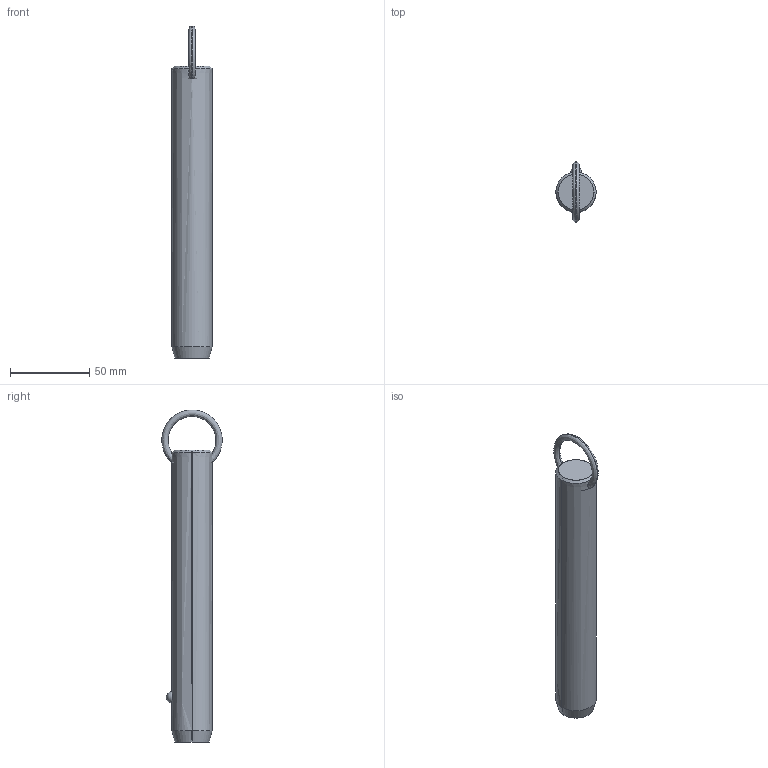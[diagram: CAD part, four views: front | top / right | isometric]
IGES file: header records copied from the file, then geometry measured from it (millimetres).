
Start section: SolidWorks IGES file using analytic representation for surfaces
Global section: file name: C:\Users\liam_\OneDrive\Documents\WORK\Work for WixRoyd\Job Files\J-00019 - Matt Davis CAD Checking\04. CAD Drawings\automotion20190605\P1250.2_v2\P1250.2_v2_20190729_IGES\P1250.100-550.igs; native system: SolidWorks 2017; preprocessor: SolidWorks 2017; author: liam_; date: 190730.174404; units: millimetre
Bounding box: 25.4 x 38.08 x 209.5 mm (x, y, z)
Surface area: 16463.9 mm2 (no closed solid volume)
Topology: 0 solids, 0 shells, 12 faces, 298 edges, 296 vertices
Faces by surface type: revolution 8, bspline 4
